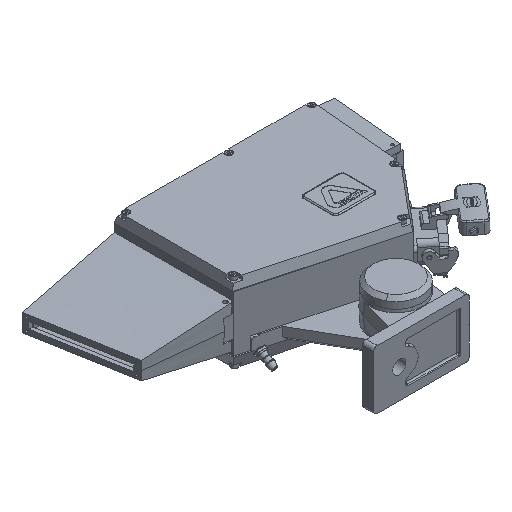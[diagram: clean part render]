
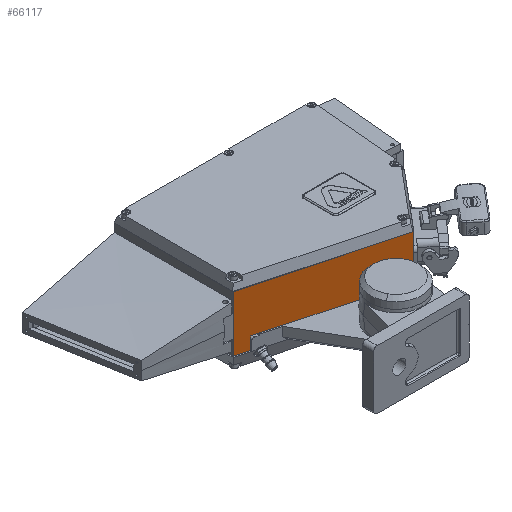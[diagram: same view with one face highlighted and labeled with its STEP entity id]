
A CAD part, isometric view. The second image highlights one B-rep face of the part: STEP entity #66117.
In plain terms, the highlighted planar face has unit normal (-0.259, -0.966, 0).
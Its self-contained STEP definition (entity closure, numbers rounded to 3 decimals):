
#13 = EDGE_CURVE ( 'NONE', #99287, #68449, #46882, .T. ) ;
#993 = EDGE_LOOP ( 'NONE', ( #16556, #99581, #16083, #103698, #60866, #69361, #5731, #98100 ) ) ;
#3155 = CARTESIAN_POINT ( 'NONE',  ( 1842.886, 214.182, 21. ) ) ;
#3311 = VERTEX_POINT ( 'NONE', #3155 ) ;
#4663 = PLANE ( 'NONE',  #59409 ) ;
#5731 = ORIENTED_EDGE ( 'NONE', *, *, #13, .T. ) ;
#5982 = EDGE_CURVE ( 'NONE', #66905, #3311, #84055, .T. ) ;
#6426 = LINE ( 'NONE', #81847, #66871 ) ;
#9914 = EDGE_CURVE ( 'NONE', #61679, #42785, #24376, .T. ) ;
#10809 = CARTESIAN_POINT ( 'NONE',  ( 1823.886, 219.273, 4. ) ) ;
#11452 = EDGE_CURVE ( 'NONE', #3311, #61679, #75400, .T. ) ;
#12923 = DIRECTION ( 'NONE',  ( -0.966, 0.259, 0. ) ) ;
#15656 = CARTESIAN_POINT ( 'NONE',  ( 2017.781, 167.319, 80. ) ) ;
#16039 = DIRECTION ( 'NONE',  ( 0., 0., -1. ) ) ;
#16083 = ORIENTED_EDGE ( 'NONE', *, *, #5982, .F. ) ;
#16556 = ORIENTED_EDGE ( 'NONE', *, *, #9914, .F. ) ;
#17160 = VERTEX_POINT ( 'NONE', #32156 ) ;
#17358 = CARTESIAN_POINT ( 'NONE',  ( 1999.591, 172.193, 4. ) ) ;
#17712 = DIRECTION ( 'NONE',  ( -0.966, 0.259, 0. ) ) ;
#18463 = VECTOR ( 'NONE', #17712, 1000. ) ;
#22349 = VECTOR ( 'NONE', #30696, 1000. ) ;
#24376 = LINE ( 'NONE', #10809, #84838 ) ;
#27484 = DIRECTION ( 'NONE',  ( 0., 0., 1. ) ) ;
#29039 = CARTESIAN_POINT ( 'NONE',  ( 1823.886, 219.273, 80. ) ) ;
#30696 = DIRECTION ( 'NONE',  ( -0.966, 0.259, 0. ) ) ;
#32156 = CARTESIAN_POINT ( 'NONE',  ( 2017.781, 167.319, 4. ) ) ;
#35037 = LINE ( 'NONE', #72659, #76192 ) ;
#38478 = CARTESIAN_POINT ( 'NONE',  ( 1999.591, 172.193, 4. ) ) ;
#39844 = LINE ( 'NONE', #38478, #80996 ) ;
#40652 = EDGE_CURVE ( 'NONE', #68449, #42785, #6426, .T. ) ;
#42051 = VECTOR ( 'NONE', #27484, 1000. ) ;
#42785 = VERTEX_POINT ( 'NONE', #92889 ) ;
#46028 = EDGE_CURVE ( 'NONE', #17160, #99287, #105135, .T. ) ;
#46882 = LINE ( 'NONE', #78335, #22349 ) ;
#50811 = CARTESIAN_POINT ( 'NONE',  ( 1823.886, 219.273, 21. ) ) ;
#52689 = DIRECTION ( 'NONE',  ( 0., 0., -1. ) ) ;
#59409 = AXIS2_PLACEMENT_3D ( 'NONE', #29039, #62231, #12923 ) ;
#60866 = ORIENTED_EDGE ( 'NONE', *, *, #64604, .F. ) ;
#61679 = VERTEX_POINT ( 'NONE', #87767 ) ;
#62231 = DIRECTION ( 'NONE',  ( 0.259, 0.966, 0. ) ) ;
#64604 = EDGE_CURVE ( 'NONE', #17160, #67462, #35037, .T. ) ;
#66117 = ADVANCED_FACE ( 'NONE', ( #73436 ), #4663, .F. ) ;
#66871 = VECTOR ( 'NONE', #16039, 1000. ) ;
#66905 = VERTEX_POINT ( 'NONE', #80972 ) ;
#67462 = VERTEX_POINT ( 'NONE', #17358 ) ;
#68449 = VERTEX_POINT ( 'NONE', #74326 ) ;
#69361 = ORIENTED_EDGE ( 'NONE', *, *, #46028, .T. ) ;
#72659 = CARTESIAN_POINT ( 'NONE',  ( 1823.886, 219.273, 4. ) ) ;
#73436 = FACE_OUTER_BOUND ( 'NONE', #993, .T. ) ;
#74326 = CARTESIAN_POINT ( 'NONE',  ( 1823.886, 219.273, 80. ) ) ;
#75400 = LINE ( 'NONE', #93675, #97330 ) ;
#76192 = VECTOR ( 'NONE', #80882, 1000. ) ;
#76610 = DIRECTION ( 'NONE',  ( -0.966, 0.259, 0. ) ) ;
#76793 = CARTESIAN_POINT ( 'NONE',  ( 2017.781, 167.319, 80. ) ) ;
#78335 = CARTESIAN_POINT ( 'NONE',  ( 2017.781, 167.319, 80. ) ) ;
#78860 = EDGE_CURVE ( 'NONE', #67462, #66905, #39844, .T. ) ;
#80882 = DIRECTION ( 'NONE',  ( -0.966, 0.259, 0. ) ) ;
#80972 = CARTESIAN_POINT ( 'NONE',  ( 1996.695, 172.969, 21. ) ) ;
#80996 = VECTOR ( 'NONE', #87680, 1000. ) ;
#81847 = CARTESIAN_POINT ( 'NONE',  ( 1823.886, 219.273, 80. ) ) ;
#84055 = LINE ( 'NONE', #50811, #18463 ) ;
#84838 = VECTOR ( 'NONE', #76610, 1000. ) ;
#87680 = DIRECTION ( 'NONE',  ( -0.168, 0.045, 0.985 ) ) ;
#87767 = CARTESIAN_POINT ( 'NONE',  ( 1842.886, 214.182, 4. ) ) ;
#92889 = CARTESIAN_POINT ( 'NONE',  ( 1823.886, 219.273, 4. ) ) ;
#93675 = CARTESIAN_POINT ( 'NONE',  ( 1842.886, 214.182, 80. ) ) ;
#97330 = VECTOR ( 'NONE', #52689, 1000. ) ;
#98100 = ORIENTED_EDGE ( 'NONE', *, *, #40652, .T. ) ;
#99287 = VERTEX_POINT ( 'NONE', #15656 ) ;
#99581 = ORIENTED_EDGE ( 'NONE', *, *, #11452, .F. ) ;
#103698 = ORIENTED_EDGE ( 'NONE', *, *, #78860, .F. ) ;
#105135 = LINE ( 'NONE', #76793, #42051 ) ;
